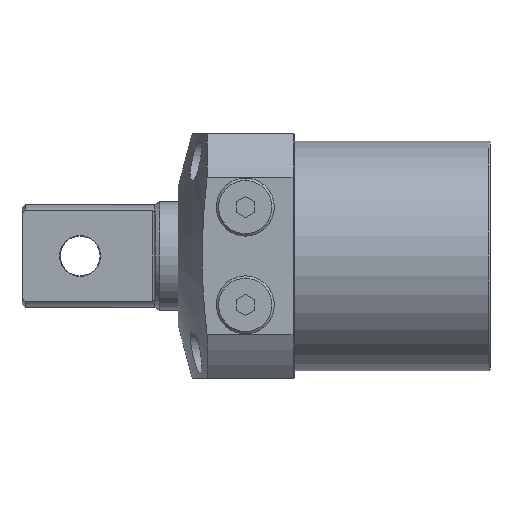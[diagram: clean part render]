
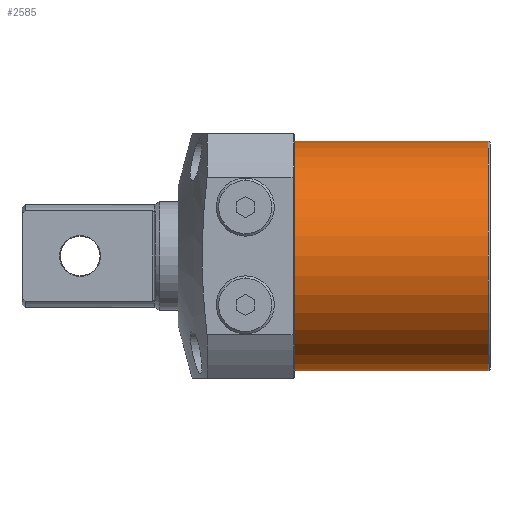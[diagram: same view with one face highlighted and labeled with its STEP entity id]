
A CAD part, left-side view. The second image highlights one B-rep face of the part: STEP entity #2585.
In plain terms, the highlighted cylindrical face has radius 37.5 mm (diameter 75 mm), a partial arc.
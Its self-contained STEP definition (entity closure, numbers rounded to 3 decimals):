
#159 = EDGE_CURVE ( 'NONE', #162, #4763, #442, .T. ) ;
#162 = VERTEX_POINT ( 'NONE', #240 ) ;
#240 = CARTESIAN_POINT ( 'NONE',  ( 63.5, 0., 37.5 ) ) ;
#364 = DIRECTION ( 'NONE',  ( -1., 0., 0. ) ) ;
#384 = FACE_OUTER_BOUND ( 'NONE', #2348, .T. ) ;
#442 = LINE ( 'NONE', #3973, #1633 ) ;
#564 = CARTESIAN_POINT ( 'NONE',  ( 63.5, 0., 0. ) ) ;
#597 = DIRECTION ( 'NONE',  ( 0., 0., 1. ) ) ;
#1006 = DIRECTION ( 'NONE',  ( 0., 0., -1. ) ) ;
#1044 = EDGE_CURVE ( 'NONE', #3713, #162, #3208, .T. ) ;
#1335 = EDGE_CURVE ( 'NONE', #4763, #3533, #4537, .T. ) ;
#1412 = CARTESIAN_POINT ( 'NONE',  ( 0., 0., 0. ) ) ;
#1461 = ORIENTED_EDGE ( 'NONE', *, *, #159, .T. ) ;
#1482 = VECTOR ( 'NONE', #364, 1000. ) ;
#1633 = VECTOR ( 'NONE', #3289, 1000. ) ;
#1686 = AXIS2_PLACEMENT_3D ( 'NONE', #564, #3620, #1006 ) ;
#1844 = DIRECTION ( 'NONE',  ( 0., 0., -1. ) ) ;
#1929 = CARTESIAN_POINT ( 'NONE',  ( 0., 0., 37.5 ) ) ;
#2225 = ORIENTED_EDGE ( 'NONE', *, *, #1335, .T. ) ;
#2348 = EDGE_LOOP ( 'NONE', ( #4843, #3422, #1461, #2225 ) ) ;
#2585 = ADVANCED_FACE ( 'NONE', ( #384 ), #3751, .T. ) ;
#3195 = CARTESIAN_POINT ( 'NONE',  ( 71., 0., 0. ) ) ;
#3208 = CIRCLE ( 'NONE', #1686, 37.5 ) ;
#3289 = DIRECTION ( 'NONE',  ( -1., 0., 0. ) ) ;
#3422 = ORIENTED_EDGE ( 'NONE', *, *, #1044, .T. ) ;
#3533 = VERTEX_POINT ( 'NONE', #4280 ) ;
#3557 = AXIS2_PLACEMENT_3D ( 'NONE', #3195, #4069, #597 ) ;
#3611 = AXIS2_PLACEMENT_3D ( 'NONE', #1412, #4462, #1844 ) ;
#3620 = DIRECTION ( 'NONE',  ( -1., 0., 0. ) ) ;
#3713 = VERTEX_POINT ( 'NONE', #5155 ) ;
#3751 = CYLINDRICAL_SURFACE ( 'NONE', #3557, 37.5 ) ;
#3973 = CARTESIAN_POINT ( 'NONE',  ( 71., 0., 37.5 ) ) ;
#4069 = DIRECTION ( 'NONE',  ( -1., 0., 0. ) ) ;
#4280 = CARTESIAN_POINT ( 'NONE',  ( 0., 0., -37.5 ) ) ;
#4462 = DIRECTION ( 'NONE',  ( 1., 0., 0. ) ) ;
#4537 = CIRCLE ( 'NONE', #3611, 37.5 ) ;
#4763 = VERTEX_POINT ( 'NONE', #1929 ) ;
#4843 = ORIENTED_EDGE ( 'NONE', *, *, #5087, .F. ) ;
#5087 = EDGE_CURVE ( 'NONE', #3713, #3533, #5116, .T. ) ;
#5116 = LINE ( 'NONE', #5161, #1482 ) ;
#5155 = CARTESIAN_POINT ( 'NONE',  ( 63.5, 0., -37.5 ) ) ;
#5161 = CARTESIAN_POINT ( 'NONE',  ( 71., 0., -37.5 ) ) ;
